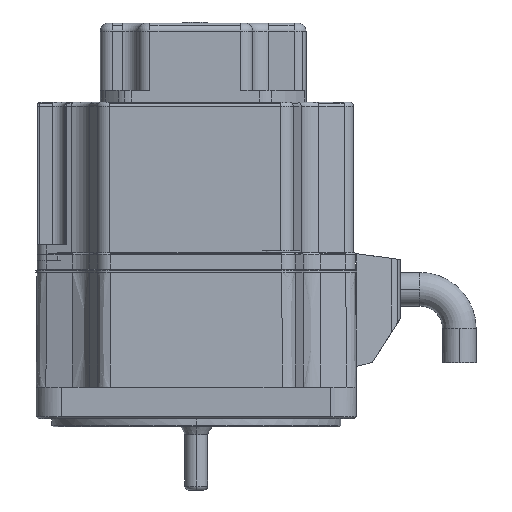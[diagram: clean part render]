
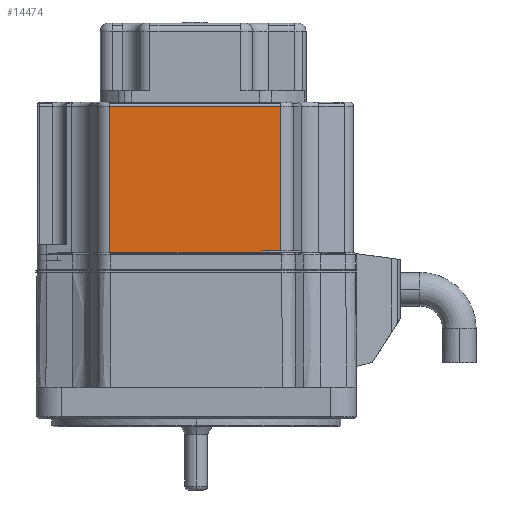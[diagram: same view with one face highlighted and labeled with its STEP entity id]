
A CAD part, left-side view. The second image highlights one B-rep face of the part: STEP entity #14474.
In plain terms, the highlighted planar face has unit normal (-1, 0, 0) as drawn and (0, -1, 0) by its records, which use the part's own axes.
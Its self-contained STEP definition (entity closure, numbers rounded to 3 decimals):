
#796 = EDGE_CURVE ( 'NONE', #9537, #12981, #7067, .T. ) ;
#1102 = CARTESIAN_POINT ( 'NONE',  ( 17., -40., 0.5 ) ) ;
#1385 = DIRECTION ( 'NONE',  ( 0., 0., 1. ) ) ;
#2755 = CARTESIAN_POINT ( 'NONE',  ( 21.661, -40., 37. ) ) ;
#3520 = EDGE_CURVE ( 'NONE', #16320, #31968, #32414, .T. ) ;
#3782 = CARTESIAN_POINT ( 'NONE',  ( -21.661, -40., 37. ) ) ;
#4523 = CARTESIAN_POINT ( 'NONE',  ( 21.661, -40., 0.5 ) ) ;
#4959 = LINE ( 'NONE', #16413, #34073 ) ;
#5541 = LINE ( 'NONE', #30925, #17459 ) ;
#7067 = LINE ( 'NONE', #1102, #27428 ) ;
#7466 = EDGE_CURVE ( 'NONE', #9537, #31968, #5541, .T. ) ;
#8323 = DIRECTION ( 'NONE',  ( 0., -1., 0. ) ) ;
#9394 = VERTEX_POINT ( 'NONE', #2755 ) ;
#9537 = VERTEX_POINT ( 'NONE', #32041 ) ;
#9619 = CARTESIAN_POINT ( 'NONE',  ( -21.661, -40., 0. ) ) ;
#9920 = EDGE_LOOP ( 'NONE', ( #11594, #12111, #27798, #13951, #34983, #20290 ) ) ;
#10295 = CARTESIAN_POINT ( 'NONE',  ( -21.661, -40., 0. ) ) ;
#11263 = EDGE_CURVE ( 'NONE', #28706, #9394, #4959, .T. ) ;
#11594 = ORIENTED_EDGE ( 'NONE', *, *, #796, .T. ) ;
#12111 = ORIENTED_EDGE ( 'NONE', *, *, #29154, .T. ) ;
#12981 = VERTEX_POINT ( 'NONE', #4523 ) ;
#13812 = DIRECTION ( 'NONE',  ( 1., 0., 0. ) ) ;
#13951 = ORIENTED_EDGE ( 'NONE', *, *, #32045, .F. ) ;
#14474 = ADVANCED_FACE ( 'NONE', ( #30564 ), #16458, .T. ) ;
#16134 = DIRECTION ( 'NONE',  ( 0., 0., 1. ) ) ;
#16320 = VERTEX_POINT ( 'NONE', #19957 ) ;
#16413 = CARTESIAN_POINT ( 'NONE',  ( -21.661, -40., 37. ) ) ;
#16458 = PLANE ( 'NONE',  #28185 ) ;
#17248 = VECTOR ( 'NONE', #1385, 1000. ) ;
#17459 = VECTOR ( 'NONE', #19237, 1000. ) ;
#19237 = DIRECTION ( 'NONE',  ( 0., 0., -1. ) ) ;
#19266 = CARTESIAN_POINT ( 'NONE',  ( 21.661, -40., 0.5 ) ) ;
#19432 = VECTOR ( 'NONE', #23683, 1000. ) ;
#19957 = CARTESIAN_POINT ( 'NONE',  ( -21.661, -40., 0. ) ) ;
#20290 = ORIENTED_EDGE ( 'NONE', *, *, #7466, .F. ) ;
#21014 = LINE ( 'NONE', #10295, #17248 ) ;
#22195 = DIRECTION ( 'NONE',  ( 0., 0., -1. ) ) ;
#22227 = LINE ( 'NONE', #19266, #35593 ) ;
#23683 = DIRECTION ( 'NONE',  ( 1., 0., 0. ) ) ;
#26393 = CARTESIAN_POINT ( 'NONE',  ( 17., -40., 0. ) ) ;
#27428 = VECTOR ( 'NONE', #35771, 1000. ) ;
#27798 = ORIENTED_EDGE ( 'NONE', *, *, #11263, .F. ) ;
#28185 = AXIS2_PLACEMENT_3D ( 'NONE', #36306, #8323, #22195 ) ;
#28706 = VERTEX_POINT ( 'NONE', #3782 ) ;
#29154 = EDGE_CURVE ( 'NONE', #12981, #9394, #22227, .T. ) ;
#30564 = FACE_OUTER_BOUND ( 'NONE', #9920, .T. ) ;
#30925 = CARTESIAN_POINT ( 'NONE',  ( 17., -40., 0.5 ) ) ;
#31968 = VERTEX_POINT ( 'NONE', #26393 ) ;
#32041 = CARTESIAN_POINT ( 'NONE',  ( 17., -40., 0.5 ) ) ;
#32045 = EDGE_CURVE ( 'NONE', #16320, #28706, #21014, .T. ) ;
#32414 = LINE ( 'NONE', #9619, #19432 ) ;
#34073 = VECTOR ( 'NONE', #13812, 1000. ) ;
#34983 = ORIENTED_EDGE ( 'NONE', *, *, #3520, .T. ) ;
#35593 = VECTOR ( 'NONE', #16134, 1000. ) ;
#35771 = DIRECTION ( 'NONE',  ( 1., 0., 0. ) ) ;
#36306 = CARTESIAN_POINT ( 'NONE',  ( -21.661, -40., 0. ) ) ;
